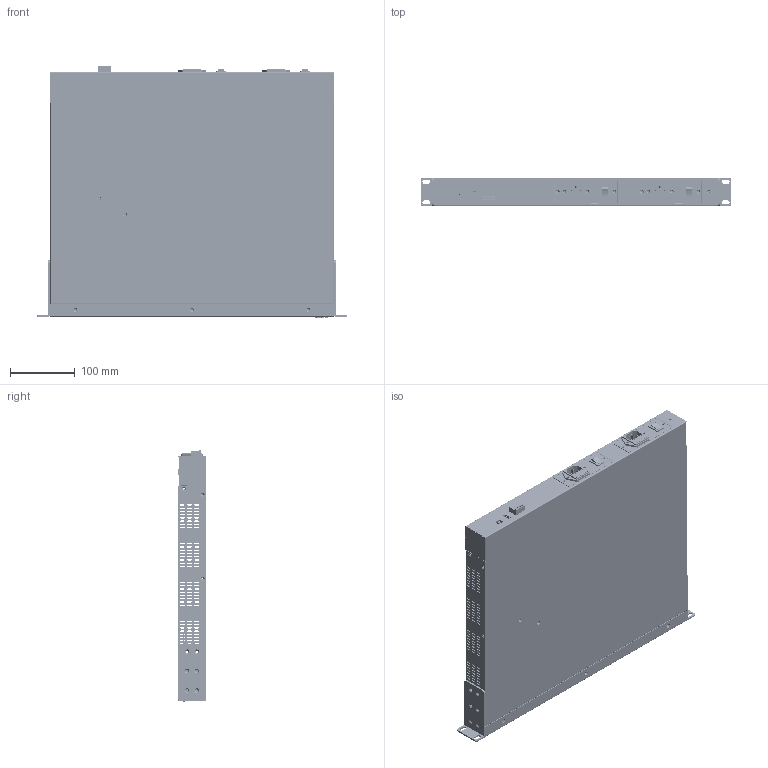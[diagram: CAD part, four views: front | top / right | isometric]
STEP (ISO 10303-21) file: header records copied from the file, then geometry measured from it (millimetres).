
FILE_DESCRIPTION((''),'2;1');
FILE_NAME('3D_IKS-G6524A-8GSFP-4GTXSFP','2014-09-01T',('Vincent_Huang'),(''),'PRO/ENGINEER BY PARAMETRIC TECHNOLOGY CORPORATION, 2004320','PRO/ENGINEER BY PARAMETRIC TECHNOLOGY CORPORATION, 2004320','');
FILE_SCHEMA(('CONFIG_CONTROL_DESIGN'));
Products named in the file (1): 3D_IKS-G6524A-8GSFP-4GTXSFP
Bounding box: 480 x 44.2 x 388.35 mm (x, y, z)
Surface area: 1325581.8 mm2 (no closed solid volume)
Topology: 0 solids, 189 shells, 35302 faces, 103524 edges, 67943 vertices
Faces by surface type: plane 22309, cylinder 12034, extrusion 634, cone 118, torus 106, bspline 80, sphere 21
Entity records: 1197428 total; most frequent: CARTESIAN_POINT 244167, ORIENTED_EDGE 206730, DIRECTION 189877, EDGE_CURVE 103456, VECTOR 73949, LINE 73315, VERTEX_POINT 67943, AXIS2_PLACEMENT_3D 57964
